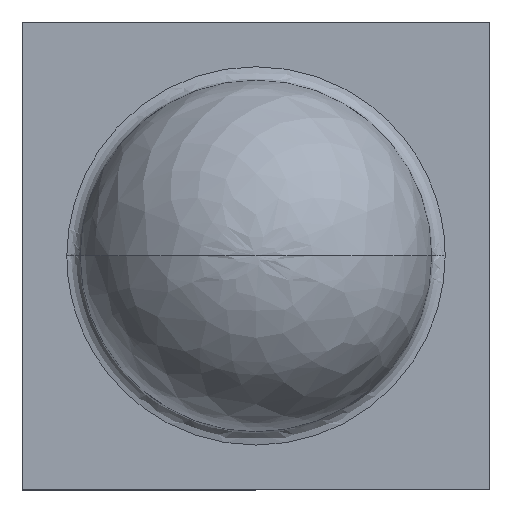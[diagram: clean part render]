
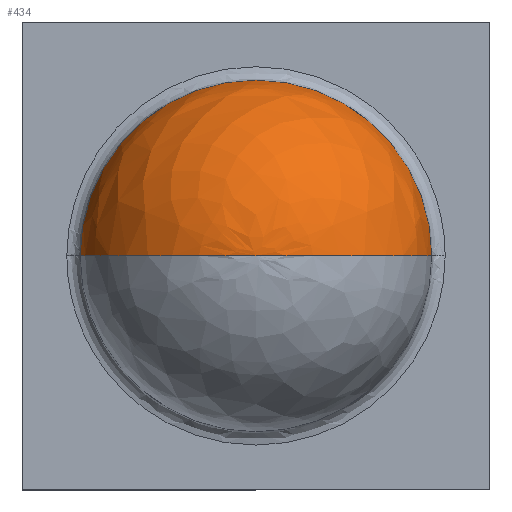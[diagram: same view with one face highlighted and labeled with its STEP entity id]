
A CAD part, top view. The second image highlights one B-rep face of the part: STEP entity #434.
In plain terms, the highlighted free-form (B-spline) face has degree [3, 3] with [4, 7] control points.
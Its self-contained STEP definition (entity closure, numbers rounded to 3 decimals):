
#54 = EDGE_LOOP ( 'NONE', ( #149, #159, #160 ) ) ;
#126 = AXIS2_PLACEMENT_3D ( 'NONE', #676, #677, #678 ) ;
#127 = AXIS2_PLACEMENT_3D ( 'NONE', #684, #685, #686 ) ;
#149 = ORIENTED_EDGE ( 'NONE', *, *, #563, .F. ) ;
#159 = ORIENTED_EDGE ( 'NONE', *, *, #401, .T. ) ;
#160 = ORIENTED_EDGE ( 'NONE', *, *, #397, .T. ) ;
#183 = VERTEX_POINT ( 'NONE', #818 ) ;
#189 = VERTEX_POINT ( 'NONE', #646 ) ;
#205 = VERTEX_POINT ( 'NONE', #661 ) ;
#321 = CARTESIAN_POINT ( 'NONE',  ( 0., 0., 0.13 ) ) ;
#322 = DIRECTION ( 'NONE',  ( 0., -1., 0. ) ) ;
#323 = DIRECTION ( 'NONE',  ( 0., 0., 1. ) ) ;
#353 =( BOUNDED_SURFACE ( )  B_SPLINE_SURFACE ( 3, 3, ( 
 ( #704, #697, #706, #707, #708, #709, #710 ),
 ( #711, #712, #713, #714, #715, #716, #717 ),
 ( #718, #719, #720, #721, #722, #723, #724 ),
 ( #725, #726, #727, #728, #729, #730, #731 ) ),
 .UNSPECIFIED., .F., .F., .F. ) 
 B_SPLINE_SURFACE_WITH_KNOTS ( ( 4, 4 ),
 ( 4, 3, 4 ),
 ( 0., 1. ),
 ( 0., 0.5, 1. ),
 .UNSPECIFIED. ) 
 GEOMETRIC_REPRESENTATION_ITEM ( )  RATIONAL_B_SPLINE_SURFACE ( (
 ( 1., 0.805, 0.805, 1., 0.805, 0.805, 1.),
 ( 0.824, 0.663, 0.663, 0.824, 0.663, 0.663, 0.824),
 ( 0.824, 0.663, 0.663, 0.824, 0.663, 0.663, 0.824),
 ( 1., 0.805, 0.805, 1., 0.805, 0.805, 1.) ) ) 
 REPRESENTATION_ITEM ( '' )  SURFACE ( )  );
#397 = EDGE_CURVE ( 'NONE', #189, #205, #586, .T. ) ;
#401 = EDGE_CURVE ( 'NONE', #183, #189, #575, .T. ) ;
#404 = AXIS2_PLACEMENT_3D ( 'NONE', #321, #322, #323 ) ;
#434 = ADVANCED_FACE ( 'NONE', ( #828 ), #353, .F. ) ;
#563 = EDGE_CURVE ( 'NONE', #183, #205, #866, .T. ) ;
#575 = CIRCLE ( 'NONE', #127, 1.3 ) ;
#586 = CIRCLE ( 'NONE', #126, 1.295 ) ;
#646 = CARTESIAN_POINT ( 'NONE',  ( 1.295, 0., 0.239 ) ) ;
#661 = CARTESIAN_POINT ( 'NONE',  ( -1.295, 0., 0.239 ) ) ;
#676 = CARTESIAN_POINT ( 'NONE',  ( 0., 0., 0.239 ) ) ;
#677 = DIRECTION ( 'NONE',  ( 0., 0., 1. ) ) ;
#678 = DIRECTION ( 'NONE',  ( 0., -1., 0. ) ) ;
#684 = CARTESIAN_POINT ( 'NONE',  ( 0., 0., 0.13 ) ) ;
#685 = DIRECTION ( 'NONE',  ( 0., 1., 0. ) ) ;
#686 = DIRECTION ( 'NONE',  ( 0., 0., 1. ) ) ;
#697 = CARTESIAN_POINT ( 'NONE',  ( 0., 0., 1.43 ) ) ;
#704 = CARTESIAN_POINT ( 'NONE',  ( 0., 0., 1.43 ) ) ;
#706 = CARTESIAN_POINT ( 'NONE',  ( 0., 0., 1.43 ) ) ;
#707 = CARTESIAN_POINT ( 'NONE',  ( 0., 0., 1.43 ) ) ;
#708 = CARTESIAN_POINT ( 'NONE',  ( 0., 0., 1.43 ) ) ;
#709 = CARTESIAN_POINT ( 'NONE',  ( 0., 0., 1.43 ) ) ;
#710 = CARTESIAN_POINT ( 'NONE',  ( 0., 0., 1.43 ) ) ;
#711 = CARTESIAN_POINT ( 'NONE',  ( -0.712, 0., 1.43 ) ) ;
#712 = CARTESIAN_POINT ( 'NONE',  ( -0.712, 0.417, 1.43 ) ) ;
#713 = CARTESIAN_POINT ( 'NONE',  ( -0.417, 0.712, 1.43 ) ) ;
#714 = CARTESIAN_POINT ( 'NONE',  ( 0., 0.712, 1.43 ) ) ;
#715 = CARTESIAN_POINT ( 'NONE',  ( 0.417, 0.712, 1.43 ) ) ;
#716 = CARTESIAN_POINT ( 'NONE',  ( 0.712, 0.417, 1.43 ) ) ;
#717 = CARTESIAN_POINT ( 'NONE',  ( 0.712, 0., 1.43 ) ) ;
#718 = CARTESIAN_POINT ( 'NONE',  ( -1.236, 0., 0.948 ) ) ;
#719 = CARTESIAN_POINT ( 'NONE',  ( -1.236, 0.724, 0.948 ) ) ;
#720 = CARTESIAN_POINT ( 'NONE',  ( -0.724, 1.236, 0.948 ) ) ;
#721 = CARTESIAN_POINT ( 'NONE',  ( 0., 1.236, 0.948 ) ) ;
#722 = CARTESIAN_POINT ( 'NONE',  ( 0.724, 1.236, 0.948 ) ) ;
#723 = CARTESIAN_POINT ( 'NONE',  ( 1.236, 0.724, 0.948 ) ) ;
#724 = CARTESIAN_POINT ( 'NONE',  ( 1.236, 0., 0.948 ) ) ;
#725 = CARTESIAN_POINT ( 'NONE',  ( -1.295, 0., 0.239 ) ) ;
#726 = CARTESIAN_POINT ( 'NONE',  ( -1.295, 0.759, 0.239 ) ) ;
#727 = CARTESIAN_POINT ( 'NONE',  ( -0.759, 1.295, 0.239 ) ) ;
#728 = CARTESIAN_POINT ( 'NONE',  ( 0., 1.295, 0.239 ) ) ;
#729 = CARTESIAN_POINT ( 'NONE',  ( 0.759, 1.295, 0.239 ) ) ;
#730 = CARTESIAN_POINT ( 'NONE',  ( 1.295, 0.759, 0.239 ) ) ;
#731 = CARTESIAN_POINT ( 'NONE',  ( 1.295, 0., 0.239 ) ) ;
#818 = CARTESIAN_POINT ( 'NONE',  ( 0., 0., 1.43 ) ) ;
#828 = FACE_OUTER_BOUND ( 'NONE', #54, .T. ) ;
#866 = CIRCLE ( 'NONE', #404, 1.3 ) ;
